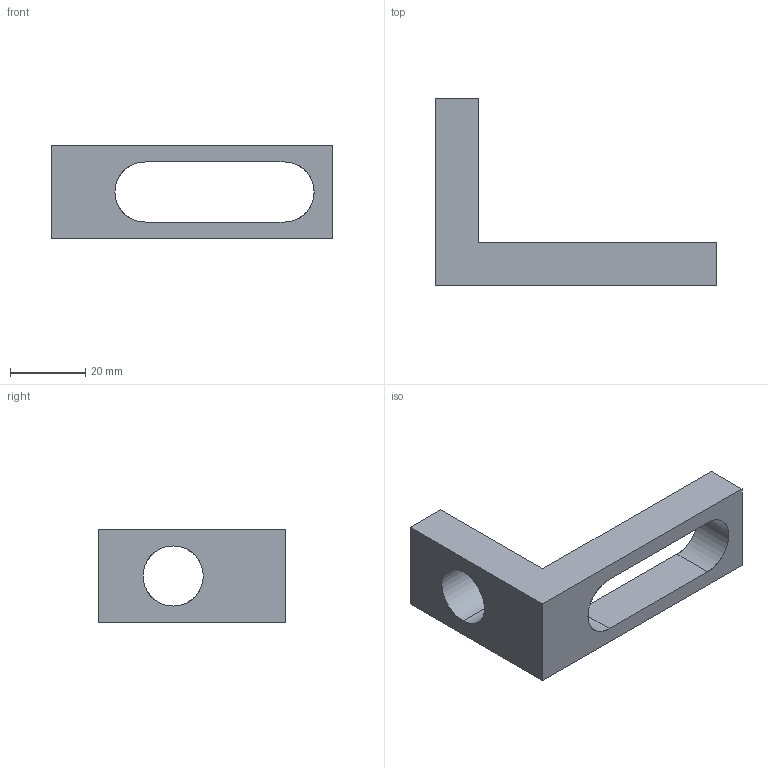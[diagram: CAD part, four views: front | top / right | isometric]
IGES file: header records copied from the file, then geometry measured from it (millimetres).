
Start section: SolidWorks IGES file using analytic representation for surfaces
Global section: file name: 5HC:\Users\Yang Lang\Desktop\CAD\IGS\T60304.IGS; native system: SolidWorks 2014; preprocessor: SolidWorks 2014; author: Yang Lang; date: 180711.113712; units: millimetre
Bounding box: 75 x 50 x 25 mm (x, y, z)
Surface area: 8879.3 mm2 (no closed solid volume)
Topology: 0 solids, 0 shells, 14 faces, 192 edges, 192 vertices
Faces by surface type: bspline 10, revolution 4
